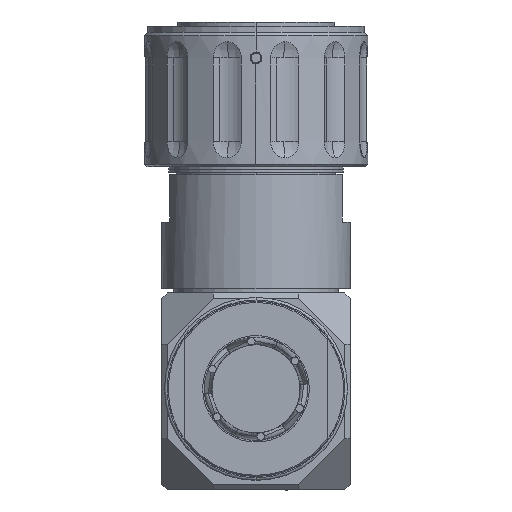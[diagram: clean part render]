
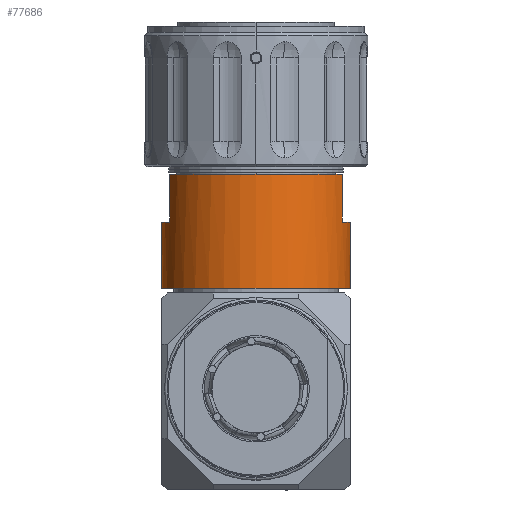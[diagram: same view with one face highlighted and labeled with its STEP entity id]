
A CAD part, front view. The second image highlights one B-rep face of the part: STEP entity #77686.
In plain terms, the highlighted cylindrical face has radius 18.86 mm (diameter 37.719 mm), a partial arc.
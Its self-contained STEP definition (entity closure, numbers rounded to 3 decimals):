
#3624 = CIRCLE ( 'NONE', #65077, 18.86 ) ;
#4909 = EDGE_CURVE ( 'NONE', #41732, #94691, #49562, .T. ) ;
#5464 = FACE_OUTER_BOUND ( 'NONE', #18310, .T. ) ;
#5594 = DIRECTION ( 'NONE',  ( 1., 0., 0. ) ) ;
#6526 = DIRECTION ( 'NONE',  ( 1., 0., 0. ) ) ;
#7038 = ORIENTED_EDGE ( 'NONE', *, *, #4909, .F. ) ;
#9256 = CIRCLE ( 'NONE', #94499, 18.86 ) ;
#9556 = DIRECTION ( 'NONE',  ( 0., 0., -1. ) ) ;
#12973 = CARTESIAN_POINT ( 'NONE',  ( 17.208, -7.717, -30.328 ) ) ;
#14298 = LINE ( 'NONE', #110550, #56269 ) ;
#17165 = VERTEX_POINT ( 'NONE', #37570 ) ;
#18248 = ORIENTED_EDGE ( 'NONE', *, *, #56879, .F. ) ;
#18310 = EDGE_LOOP ( 'NONE', ( #43459, #80500, #52545, #33238, #18248, #7038, #105922, #115882 ) ) ;
#18870 = LINE ( 'NONE', #94608, #67543 ) ;
#19555 = EDGE_CURVE ( 'NONE', #41732, #121047, #3624, .T. ) ;
#22176 = CARTESIAN_POINT ( 'NONE',  ( 0., 0., -39.853 ) ) ;
#22422 = CARTESIAN_POINT ( 'NONE',  ( -17.208, -7.717, -39.853 ) ) ;
#22771 = CARTESIAN_POINT ( 'NONE',  ( -18.86, 0., -53.01 ) ) ;
#29914 = CARTESIAN_POINT ( 'NONE',  ( 0., 0., -30.328 ) ) ;
#33238 = ORIENTED_EDGE ( 'NONE', *, *, #115819, .F. ) ;
#34514 = CARTESIAN_POINT ( 'NONE',  ( 18.86, 0., -53.01 ) ) ;
#36093 = EDGE_CURVE ( 'NONE', #53647, #87579, #108073, .T. ) ;
#37038 = CARTESIAN_POINT ( 'NONE',  ( 18.86, 0., -30.328 ) ) ;
#37570 = CARTESIAN_POINT ( 'NONE',  ( -18.86, 0., -39.853 ) ) ;
#39676 = CARTESIAN_POINT ( 'NONE',  ( 0., 0., -30.328 ) ) ;
#41466 = DIRECTION ( 'NONE',  ( 0., 0., -1. ) ) ;
#41732 = VERTEX_POINT ( 'NONE', #12973 ) ;
#43391 = EDGE_CURVE ( 'NONE', #17165, #62864, #9256, .T. ) ;
#43459 = ORIENTED_EDGE ( 'NONE', *, *, #43391, .F. ) ;
#49562 = LINE ( 'NONE', #87405, #108389 ) ;
#51359 = DIRECTION ( 'NONE',  ( 0., 1., 0. ) ) ;
#52545 = ORIENTED_EDGE ( 'NONE', *, *, #36093, .F. ) ;
#53647 = VERTEX_POINT ( 'NONE', #34514 ) ;
#55785 = VECTOR ( 'NONE', #101609, 1000. ) ;
#56269 = VECTOR ( 'NONE', #118621, 1000. ) ;
#56879 = EDGE_CURVE ( 'NONE', #94691, #75718, #59993, .T. ) ;
#59993 = CIRCLE ( 'NONE', #61918, 18.86 ) ;
#61918 = AXIS2_PLACEMENT_3D ( 'NONE', #119507, #71726, #6526 ) ;
#62864 = VERTEX_POINT ( 'NONE', #22422 ) ;
#65034 = EDGE_CURVE ( 'NONE', #62864, #121047, #14298, .T. ) ;
#65077 = AXIS2_PLACEMENT_3D ( 'NONE', #39676, #115394, #88038 ) ;
#67543 = VECTOR ( 'NONE', #9556, 1000. ) ;
#71726 = DIRECTION ( 'NONE',  ( 0., 0., 1. ) ) ;
#75527 = LINE ( 'NONE', #37038, #55785 ) ;
#75718 = VERTEX_POINT ( 'NONE', #95675 ) ;
#77686 = ADVANCED_FACE ( 'NONE', ( #5464 ), #114965, .T. ) ;
#78370 = CARTESIAN_POINT ( 'NONE',  ( 17.208, -7.717, -39.853 ) ) ;
#80020 = DIRECTION ( 'NONE',  ( 0., 0., -1. ) ) ;
#80500 = ORIENTED_EDGE ( 'NONE', *, *, #99494, .T. ) ;
#87405 = CARTESIAN_POINT ( 'NONE',  ( 17.208, -7.717, -30.328 ) ) ;
#87579 = VERTEX_POINT ( 'NONE', #22771 ) ;
#88038 = DIRECTION ( 'NONE',  ( 1., 0., 0. ) ) ;
#90629 = CARTESIAN_POINT ( 'NONE',  ( 0., 0., -53.01 ) ) ;
#94499 = AXIS2_PLACEMENT_3D ( 'NONE', #22176, #98502, #51359 ) ;
#94608 = CARTESIAN_POINT ( 'NONE',  ( -18.86, 0., -30.328 ) ) ;
#94691 = VERTEX_POINT ( 'NONE', #78370 ) ;
#95299 = CARTESIAN_POINT ( 'NONE',  ( -17.208, -7.717, -30.328 ) ) ;
#95675 = CARTESIAN_POINT ( 'NONE',  ( 18.86, 0., -39.853 ) ) ;
#98502 = DIRECTION ( 'NONE',  ( 0., 0., 1. ) ) ;
#99494 = EDGE_CURVE ( 'NONE', #17165, #87579, #18870, .T. ) ;
#101609 = DIRECTION ( 'NONE',  ( 0., 0., -1. ) ) ;
#105922 = ORIENTED_EDGE ( 'NONE', *, *, #19555, .T. ) ;
#106127 = AXIS2_PLACEMENT_3D ( 'NONE', #90629, #109888, #5594 ) ;
#108073 = CIRCLE ( 'NONE', #106127, 18.86 ) ;
#108389 = VECTOR ( 'NONE', #41466, 1000. ) ;
#109888 = DIRECTION ( 'NONE',  ( 0., 0., -1. ) ) ;
#110550 = CARTESIAN_POINT ( 'NONE',  ( -17.208, -7.717, -30.328 ) ) ;
#114965 = CYLINDRICAL_SURFACE ( 'NONE', #119329, 18.86 ) ;
#115394 = DIRECTION ( 'NONE',  ( 0., 0., -1. ) ) ;
#115819 = EDGE_CURVE ( 'NONE', #75718, #53647, #75527, .T. ) ;
#115882 = ORIENTED_EDGE ( 'NONE', *, *, #65034, .F. ) ;
#117858 = DIRECTION ( 'NONE',  ( 1., 0., 0. ) ) ;
#118621 = DIRECTION ( 'NONE',  ( 0., 0., 1. ) ) ;
#119329 = AXIS2_PLACEMENT_3D ( 'NONE', #29914, #80020, #117858 ) ;
#119507 = CARTESIAN_POINT ( 'NONE',  ( 0., 0., -39.853 ) ) ;
#121047 = VERTEX_POINT ( 'NONE', #95299 ) ;
